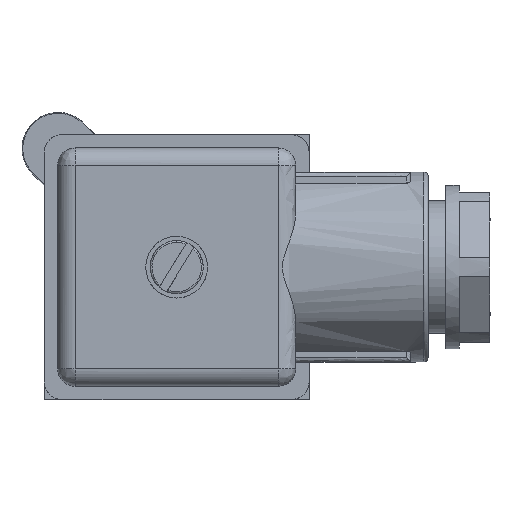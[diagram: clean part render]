
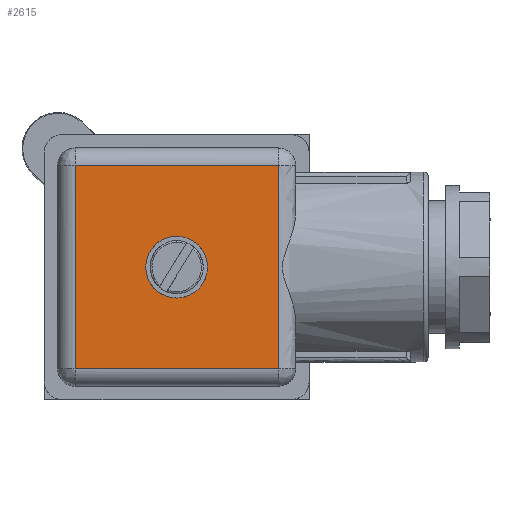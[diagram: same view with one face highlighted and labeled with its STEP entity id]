
A CAD part, left-side view. The second image highlights one B-rep face of the part: STEP entity #2615.
In plain terms, the highlighted free-form (B-spline) face has degree [1, 1] with [2, 2] control points.
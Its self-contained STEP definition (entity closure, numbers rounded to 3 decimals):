
#2032=CARTESIAN_POINT('V155',(-128.85,
   -59.777,77.1));
#2033=VERTEX_POINT('V155',#2032);
#2041=CARTESIAN_POINT('E218',(-128.85,
   -59.777,77.1));
#2042=CARTESIAN_POINT('E218',(-128.85,
   -53.715,77.1));
#2043=CARTESIAN_POINT('E218',(-128.85,
   -56.746,82.35));
#2044=CARTESIAN_POINT('E218',(-128.85,
   -59.777,87.6));
#2045=CARTESIAN_POINT('E218',(-128.85,
   -62.808,82.35));
#2046=CARTESIAN_POINT('E218',(-128.85,
   -65.839,77.1));
#2047=CARTESIAN_POINT('E218',(-128.85,
   -59.777,77.1));
#2055=(BOUNDED_CURVE()B_SPLINE_CURVE(2,(#2041,#2042,#2043,#2044,
   #2045,#2046,#2047),.CIRCULAR_ARC.,.T.,.U.)
   B_SPLINE_CURVE_WITH_KNOTS((3,2,2,3),(0.0,0.333,
   0.667,1.0),.UNSPECIFIED.)CURVE()
   GEOMETRIC_REPRESENTATION_ITEM()RATIONAL_B_SPLINE_CURVE((1.0,
   0.5,1.0,0.5,1.0,0.5,1.0)
   )REPRESENTATION_ITEM('E218'));
#2056=EDGE_CURVE('E218',#2033,#2033,#2055,.T.);
#2080=CARTESIAN_POINT('V130',(-128.85,
   -71.277,92.1));
#2081=VERTEX_POINT('V130',#2080);
#2145=CARTESIAN_POINT('V136',(-128.85,
   -48.277,92.1));
#2146=VERTEX_POINT('V136',#2145);
#2205=CARTESIAN_POINT('V134',(-128.85,
   -48.277,69.1));
#2206=VERTEX_POINT('V134',#2205);
#2207=CARTESIAN_POINT('E201',(-128.85,
   -48.277,92.1));
#2208=CARTESIAN_POINT('E201',(-128.85,
   -48.277,69.1));
#2209=B_SPLINE_CURVE_WITH_KNOTS('E201',1,(#2207,#2208),
   .POLYLINE_FORM.,.F.,.U.,(2,2),(2.637,
   9.958),.UNSPECIFIED.);
#2210=EDGE_CURVE('E201',#2146,#2206,#2209,.T.);
#2299=CARTESIAN_POINT('V128',(-128.85,
   -71.277,69.1));
#2300=VERTEX_POINT('V128',#2299);
#2301=CARTESIAN_POINT('E194',(-128.85,
   -48.277,69.1));
#2302=CARTESIAN_POINT('E194',(-128.85,
   -71.277,69.1));
#2303=B_SPLINE_CURVE_WITH_KNOTS('E194',1,(#2301,#2302),
   .POLYLINE_FORM.,.F.,.U.,(2,2),(2.637,
   9.958),.UNSPECIFIED.);
#2304=EDGE_CURVE('E194',#2206,#2300,#2303,.T.);
#2588=CARTESIAN_POINT('E200',(-128.85,
   -71.277,92.1));
#2589=CARTESIAN_POINT('E200',(-128.85,
   -48.277,92.1));
#2590=B_SPLINE_CURVE_WITH_KNOTS('E200',1,(#2588,#2589),
   .POLYLINE_FORM.,.F.,.U.,(2,2),(2.637,
   9.958),.UNSPECIFIED.);
#2591=EDGE_CURVE('E200',#2081,#2146,#2590,.T.);
#2597=CARTESIAN_POINT('F81',(-128.85,
   -45.602,94.775));
#2598=CARTESIAN_POINT('F81',(-128.85,
   -45.602,66.425));
#2599=CARTESIAN_POINT('F81',(-128.85,
   -73.952,94.775));
#2600=CARTESIAN_POINT('F81',(-128.85,
   -73.952,66.425));
#2601=QUASI_UNIFORM_SURFACE('F81',1,1,((#2597,#2599),(#2598,#2600))
,.PLANE_SURF.,.F.,.F.,.U.);
#2602=CARTESIAN_POINT('E187',(-128.85,
   -71.277,69.1));
#2603=CARTESIAN_POINT('E187',(-128.85,
   -71.277,92.1));
#2604=B_SPLINE_CURVE_WITH_KNOTS('E187',1,(#2602,#2603),
   .POLYLINE_FORM.,.F.,.U.,(2,2),(2.637,
   9.958),.UNSPECIFIED.);
#2605=EDGE_CURVE('E187',#2300,#2081,#2604,.T.);
#2606=ORIENTED_EDGE('E187',*,*,#2605,.T.);
#2607=ORIENTED_EDGE('E200',*,*,#2591,.T.);
#2608=ORIENTED_EDGE('E201',*,*,#2210,.T.);
#2609=ORIENTED_EDGE('E194',*,*,#2304,.T.);
#2610=EDGE_LOOP('F81',(#2606,#2607,#2608,#2609));
#2611=FACE_OUTER_BOUND('F81',#2610,.T.);
#2612=ORIENTED_EDGE('F82',*,*,#2056,.T.);
#2613=EDGE_LOOP('F81',(#2612));
#2614=FACE_BOUND('F81',#2613,.T.);
#2615=ADVANCED_FACE('F81',(#2611,#2614),#2601,.T.);
